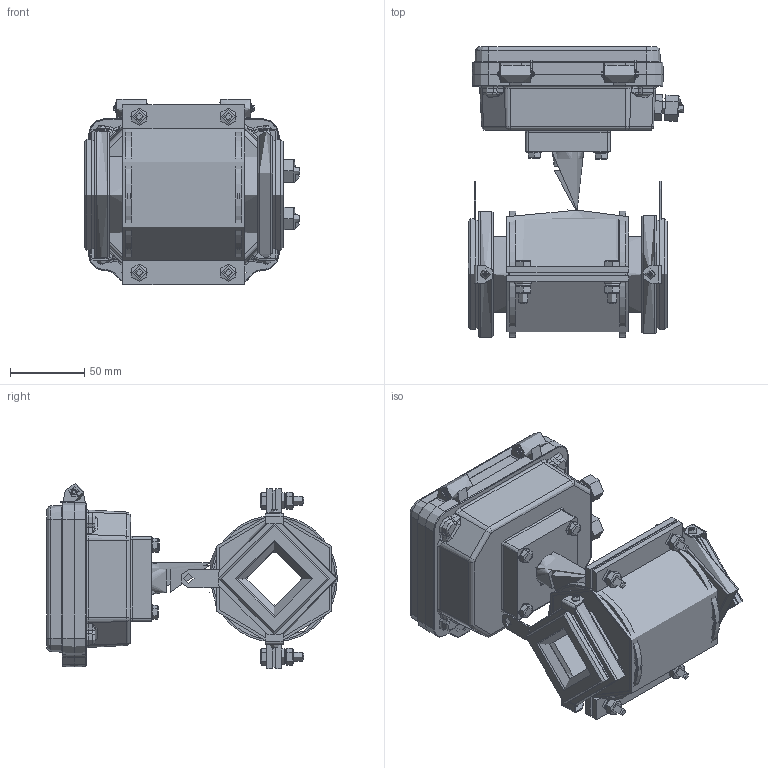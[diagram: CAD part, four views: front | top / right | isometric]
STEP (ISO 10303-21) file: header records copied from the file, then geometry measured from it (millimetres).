
FILE_DESCRIPTION(('STEP AP214'), '1');
FILE_NAME('Âçëåò ÝÌ ÏÐÎÔÈ DN40 Ñýíäâè÷', '', ('UNSPECIFIED'), ('UNSPECIFIED'), 'ASCON STEP Converter 1.6', 'ASCON Math Kernel', '');
FILE_SCHEMA(('AUTOMOTIVE_DESIGN { 1 0 10303 214 3 1 1}'));
Length unit declared in the file: millimetre
Products named in the file (1): 婽挭.407212.031-001.07
Bounding box: 145.17 x 195.71 x 124.7 mm (x, y, z)
Topology: 7 solids, 16 shells, 1473 faces, 3553 edges, 2163 vertices
Faces by surface type: plane 677, cylinder 426, cone 173, torus 153, bspline 38, sphere 6
Full cylindrical faces by diameter (mm): 0.8 x2, 2 x2, 3 x4, 3.242 x14, 3.3 x2, 4 x14, 5 x5, 5.5 x1, 6 x12, 6.4 x4, 7 x19, 7.5 x2, 8 x4, 10 x4, 11 x4, 12 x8, 12.5 x2, 16.5 x2, 18 x1, 19 x1, 20 x1, 21 x2, 25 x1, 30 x1, 39 x1, 45 x2, 47 x2, 50 x2, 51 x1, 51.5 x2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
Entity records: 74077 total; most frequent: CARTESIAN_POINT 23678, DIRECTION 7245, ORIENTED_EDGE 6456, EDGE_CURVE 3228, AXIS2_PLACEMENT_3D 2842, VERTEX_POINT 2137, EDGE_LOOP 1919, LINE 1561
